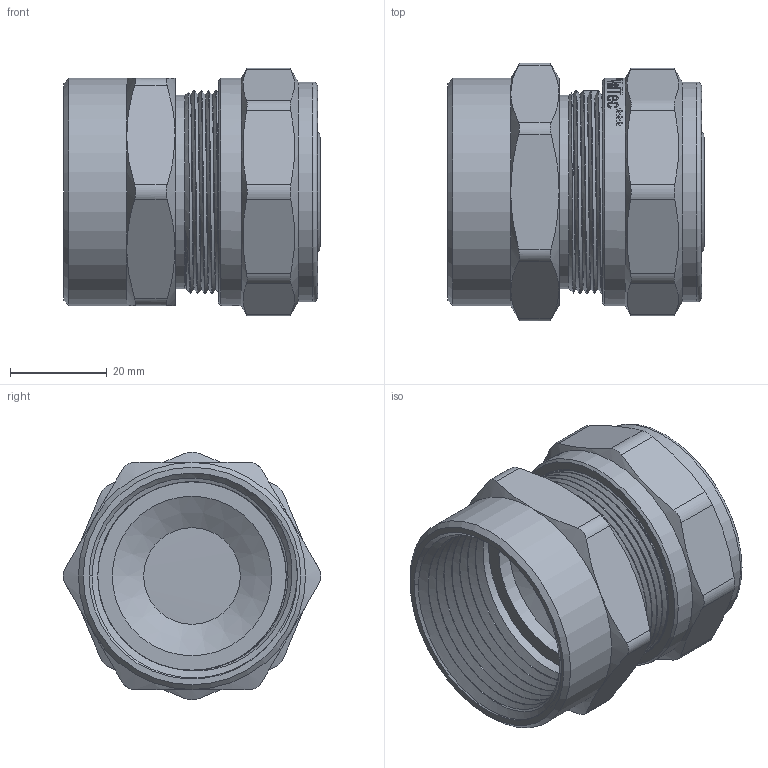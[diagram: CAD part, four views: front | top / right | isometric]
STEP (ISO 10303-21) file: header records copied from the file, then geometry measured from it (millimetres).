
FILE_DESCRIPTION(/* description */ (''),/* implementation_level */ '2;1');
FILE_NAME(/* name */ 'E:\Артём\00000\Работа удаленка\Обжимные фитинги\VTm.302.N.003207.stp',/* time_stamp */ '2020-06-08T16:11:26+03:00',/* author */ ('BeN_GaN'),/* organization */ (''),/* preprocessor_version */ 'ST-DEVELOPER v18',/* originating_system */ 'Autodesk Inventor 2020',/* authorisation */ '');
FILE_SCHEMA (('AUTOMOTIVE_DESIGN { 1 0 10303 214 3 1 1 }'));
Length unit declared in the file: millimetre
Products named in the file (1): VTm.302.N.003207
Bounding box: 53 x 53.34 x 51.3 mm (x, y, z)
Volume: 47905.6 mm3; surface area: 28911.3 mm2
Topology: 1 solids, 1 shells, 707 faces, 2009 edges, 1356 vertices
Faces by surface type: bspline 372, plane 174, cylinder 107, cone 30, torus 24
Full cylindrical faces by diameter (mm): 20 x1, 23.4 x2, 25.75 x5, 30.538 x4, 31.683 x5, 32.2 x1, 32.7 x1, 33 x1, 35.5 x1, 39 x8, 40 x1, 40.4 x4, 40.5 x1, 42 x5, 43.6 x8, 45.5 x1, 47 x2
Entity records: 32303 total; most frequent: CARTESIAN_POINT 16435, ORIENTED_EDGE 4018, DIRECTION 2088, EDGE_CURVE 2009, VERTEX_POINT 1356, B_SPLINE_CURVE_WITH_KNOTS 862, LINE 798, VECTOR 798
